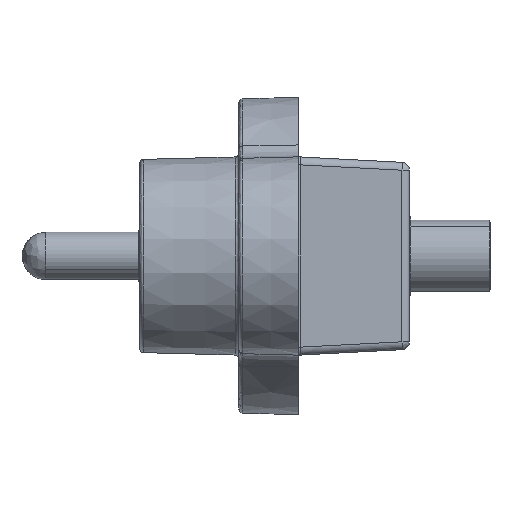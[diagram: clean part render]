
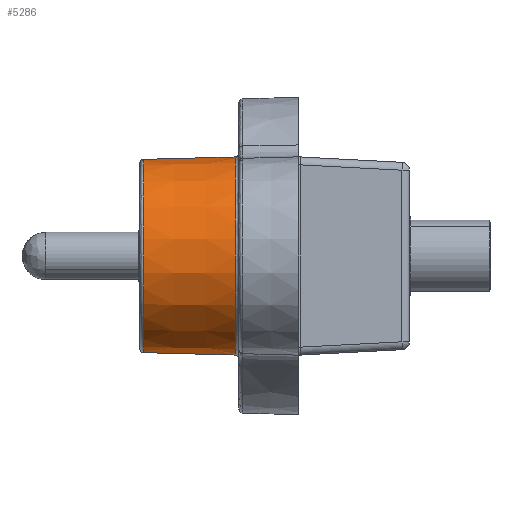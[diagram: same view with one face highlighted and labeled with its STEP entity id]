
A CAD part, left-side view. The second image highlights one B-rep face of the part: STEP entity #5286.
In plain terms, the highlighted conical face has half-angle 1.5 degrees and reference radius 2.497 mm.
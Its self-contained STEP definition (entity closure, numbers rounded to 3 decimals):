
#436 = VERTEX_POINT ( 'NONE', #6525 ) ;
#549 = CARTESIAN_POINT ( 'NONE',  ( 0., 1.597, 2.497 ) ) ;
#689 = VERTEX_POINT ( 'NONE', #7536 ) ;
#885 = DIRECTION ( 'NONE',  ( 0., -1., 0.026 ) ) ;
#904 = EDGE_CURVE ( 'NONE', #2896, #689, #3985, .T. ) ;
#949 = ORIENTED_EDGE ( 'NONE', *, *, #904, .T. ) ;
#1142 = CARTESIAN_POINT ( 'NONE',  ( 0., 1.5, -2.5 ) ) ;
#1224 = FACE_OUTER_BOUND ( 'NONE', #4962, .T. ) ;
#1264 = CARTESIAN_POINT ( 'NONE',  ( 0., 1.597, 0. ) ) ;
#1535 = ORIENTED_EDGE ( 'NONE', *, *, #7042, .T. ) ;
#1666 = DIRECTION ( 'NONE',  ( 0., 0., -1. ) ) ;
#1762 = DIRECTION ( 'NONE',  ( 0., 1., 0. ) ) ;
#1773 = EDGE_CURVE ( 'NONE', #436, #689, #4903, .T. ) ;
#1863 = CONICAL_SURFACE ( 'NONE', #7075, 2.497, 0.026 ) ;
#1920 = DIRECTION ( 'NONE',  ( 0., -1., 0. ) ) ;
#2657 = EDGE_CURVE ( 'NONE', #2896, #7568, #2750, .T. ) ;
#2750 = LINE ( 'NONE', #5245, #4184 ) ;
#2816 = DIRECTION ( 'NONE',  ( 0., 0., -1. ) ) ;
#2896 = VERTEX_POINT ( 'NONE', #7118 ) ;
#3911 = VECTOR ( 'NONE', #6187, 1000. ) ;
#3985 = CIRCLE ( 'NONE', #7512, 2.437 ) ;
#4184 = VECTOR ( 'NONE', #885, 1000. ) ;
#4282 = CIRCLE ( 'NONE', #8075, 2.497 ) ;
#4580 = CARTESIAN_POINT ( 'NONE',  ( 0., 1.597, 0. ) ) ;
#4673 = CARTESIAN_POINT ( 'NONE',  ( 0., 3.903, 0. ) ) ;
#4903 = LINE ( 'NONE', #1142, #3911 ) ;
#4962 = EDGE_LOOP ( 'NONE', ( #6615, #949, #5300, #1535 ) ) ;
#5245 = CARTESIAN_POINT ( 'NONE',  ( 0., 1.5, 2.5 ) ) ;
#5286 = ADVANCED_FACE ( 'NONE', ( #1224 ), #1863, .T. ) ;
#5300 = ORIENTED_EDGE ( 'NONE', *, *, #1773, .F. ) ;
#5968 = DIRECTION ( 'NONE',  ( 0., -1., 0. ) ) ;
#6187 = DIRECTION ( 'NONE',  ( 0., 1., 0.026 ) ) ;
#6525 = CARTESIAN_POINT ( 'NONE',  ( 0., 1.597, -2.497 ) ) ;
#6615 = ORIENTED_EDGE ( 'NONE', *, *, #2657, .F. ) ;
#7042 = EDGE_CURVE ( 'NONE', #436, #7568, #4282, .T. ) ;
#7075 = AXIS2_PLACEMENT_3D ( 'NONE', #1264, #1920, #8058 ) ;
#7118 = CARTESIAN_POINT ( 'NONE',  ( 0., 3.903, 2.437 ) ) ;
#7512 = AXIS2_PLACEMENT_3D ( 'NONE', #4673, #5968, #1666 ) ;
#7536 = CARTESIAN_POINT ( 'NONE',  ( 0., 3.903, -2.437 ) ) ;
#7568 = VERTEX_POINT ( 'NONE', #549 ) ;
#8058 = DIRECTION ( 'NONE',  ( 0., 0., -1. ) ) ;
#8075 = AXIS2_PLACEMENT_3D ( 'NONE', #4580, #1762, #2816 ) ;
